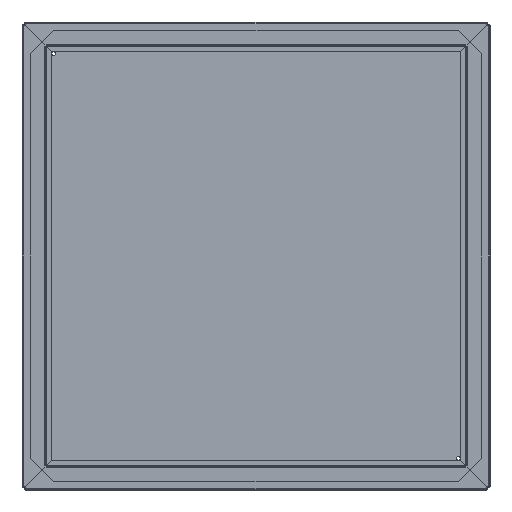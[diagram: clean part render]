
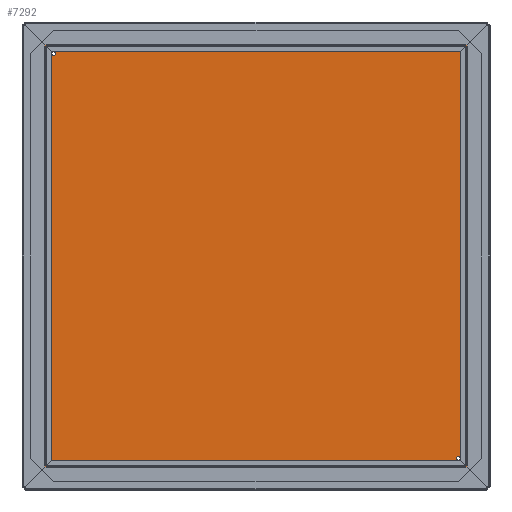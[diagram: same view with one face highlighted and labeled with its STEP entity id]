
A CAD part, front view. The second image highlights one B-rep face of the part: STEP entity #7292.
In plain terms, the highlighted planar face has unit normal (0, -1, 0).
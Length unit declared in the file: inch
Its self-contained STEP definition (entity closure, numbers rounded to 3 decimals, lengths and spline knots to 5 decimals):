
#7057=DIRECTION('',(0.707,0.,-0.707));
#7058=VECTOR('',#7057,1.41421);
#7059=CARTESIAN_POINT('',(-9.65,0.,-8.65));
#7060=LINE('',#7059,#7058);
#7061=DIRECTION('',(0.,0.,1.));
#7062=VECTOR('',#7061,17.3);
#7063=CARTESIAN_POINT('',(-9.65,0.,-8.65));
#7064=LINE('',#7063,#7062);
#7065=DIRECTION('',(-0.707,0.,-0.707));
#7066=VECTOR('',#7065,1.41421);
#7067=CARTESIAN_POINT('',(-8.65,0.,9.65));
#7068=LINE('',#7067,#7066);
#7069=DIRECTION('',(1.,0.,0.));
#7070=VECTOR('',#7069,17.3);
#7071=CARTESIAN_POINT('',(-8.65,0.,9.65));
#7072=LINE('',#7071,#7070);
#7073=DIRECTION('',(-0.707,0.,0.707));
#7074=VECTOR('',#7073,1.41421);
#7075=CARTESIAN_POINT('',(9.65,0.,8.65));
#7076=LINE('',#7075,#7074);
#7077=DIRECTION('',(0.,0.,-1.));
#7078=VECTOR('',#7077,17.3);
#7079=CARTESIAN_POINT('',(9.65,0.,8.65));
#7080=LINE('',#7079,#7078);
#7081=DIRECTION('',(0.707,0.,0.707));
#7082=VECTOR('',#7081,1.41421);
#7083=CARTESIAN_POINT('',(8.65,0.,-9.65));
#7084=LINE('',#7083,#7082);
#7085=DIRECTION('',(-1.,0.,0.));
#7086=VECTOR('',#7085,17.3);
#7087=CARTESIAN_POINT('',(8.65,0.,-9.65));
#7088=LINE('',#7087,#7086);
#7089=CARTESIAN_POINT('',(8.65,0.,-8.65));
#7090=DIRECTION('',(0.,1.,0.));
#7091=DIRECTION('',(1.,0.,0.));
#7092=AXIS2_PLACEMENT_3D('',#7089,#7090,#7091);
#7094=CARTESIAN_POINT('',(8.65,0.,-8.65));
#7095=DIRECTION('',(0.,1.,0.));
#7096=DIRECTION('',(-1.,0.,0.));
#7097=AXIS2_PLACEMENT_3D('',#7094,#7095,#7096);
#7099=CARTESIAN_POINT('',(-8.65,0.,8.65));
#7100=DIRECTION('',(0.,-1.,0.));
#7101=DIRECTION('',(1.,0.,0.));
#7102=AXIS2_PLACEMENT_3D('',#7099,#7100,#7101);
#7104=CARTESIAN_POINT('',(-8.65,0.,8.65));
#7105=DIRECTION('',(0.,-1.,0.));
#7106=DIRECTION('',(-1.,0.,0.));
#7107=AXIS2_PLACEMENT_3D('',#7104,#7105,#7106);
#7209=CARTESIAN_POINT('',(-9.65,0.,-8.65));
#7210=CARTESIAN_POINT('',(-8.65,0.,-9.65));
#7211=VERTEX_POINT('',#7209);
#7212=VERTEX_POINT('',#7210);
#7217=CARTESIAN_POINT('',(-8.65,0.,9.65));
#7218=CARTESIAN_POINT('',(-9.65,0.,8.65));
#7219=VERTEX_POINT('',#7217);
#7220=VERTEX_POINT('',#7218);
#7225=CARTESIAN_POINT('',(9.65,0.,8.65));
#7226=CARTESIAN_POINT('',(8.65,0.,9.65));
#7227=VERTEX_POINT('',#7225);
#7228=VERTEX_POINT('',#7226);
#7233=CARTESIAN_POINT('',(8.65,0.,-9.65));
#7234=CARTESIAN_POINT('',(9.65,0.,-8.65));
#7235=VERTEX_POINT('',#7233);
#7236=VERTEX_POINT('',#7234);
#7241=CARTESIAN_POINT('',(8.7305,0.,-8.65));
#7242=CARTESIAN_POINT('',(8.5695,0.,-8.65));
#7243=VERTEX_POINT('',#7241);
#7244=VERTEX_POINT('',#7242);
#7249=CARTESIAN_POINT('',(-8.5695,0.,8.65));
#7250=CARTESIAN_POINT('',(-8.7305,0.,8.65));
#7251=VERTEX_POINT('',#7249);
#7252=VERTEX_POINT('',#7250);
#7257=CARTESIAN_POINT('',(0.,0.,0.));
#7258=DIRECTION('',(0.,1.,0.));
#7259=DIRECTION('',(1.,0.,0.));
#7260=AXIS2_PLACEMENT_3D('',#7257,#7258,#7259);
#7261=PLANE('',#7260);
#7263=ORIENTED_EDGE('',*,*,#7262,.F.);
#7265=ORIENTED_EDGE('',*,*,#7264,.T.);
#7267=ORIENTED_EDGE('',*,*,#7266,.F.);
#7269=ORIENTED_EDGE('',*,*,#7268,.T.);
#7271=ORIENTED_EDGE('',*,*,#7270,.F.);
#7273=ORIENTED_EDGE('',*,*,#7272,.T.);
#7275=ORIENTED_EDGE('',*,*,#7274,.F.);
#7277=ORIENTED_EDGE('',*,*,#7276,.T.);
#7278=EDGE_LOOP('',(#7263,#7265,#7267,#7269,#7271,#7273,#7275,#7277));
#7279=FACE_OUTER_BOUND('',#7278,.F.);
#7281=ORIENTED_EDGE('',*,*,#7280,.F.);
#7283=ORIENTED_EDGE('',*,*,#7282,.F.);
#7284=EDGE_LOOP('',(#7281,#7283));
#7285=FACE_BOUND('',#7284,.F.);
#7287=ORIENTED_EDGE('',*,*,#7286,.T.);
#7289=ORIENTED_EDGE('',*,*,#7288,.T.);
#7290=EDGE_LOOP('',(#7287,#7289));
#7291=FACE_BOUND('',#7290,.F.);
#7292=ADVANCED_FACE('',(#7279,#7285,#7291),#7261,.F.);
#7093=CIRCLE('',#7092,0.0805);
#7098=CIRCLE('',#7097,0.0805);
#7103=CIRCLE('',#7102,0.0805);
#7108=CIRCLE('',#7107,0.0805);
#7262=EDGE_CURVE('',#7211,#7212,#7060,.T.);
#7264=EDGE_CURVE('',#7211,#7220,#7064,.T.);
#7266=EDGE_CURVE('',#7219,#7220,#7068,.T.);
#7268=EDGE_CURVE('',#7219,#7228,#7072,.T.);
#7270=EDGE_CURVE('',#7227,#7228,#7076,.T.);
#7272=EDGE_CURVE('',#7227,#7236,#7080,.T.);
#7274=EDGE_CURVE('',#7235,#7236,#7084,.T.);
#7276=EDGE_CURVE('',#7235,#7212,#7088,.T.);
#7280=EDGE_CURVE('',#7243,#7244,#7093,.T.);
#7282=EDGE_CURVE('',#7244,#7243,#7098,.T.);
#7286=EDGE_CURVE('',#7251,#7252,#7103,.T.);
#7288=EDGE_CURVE('',#7252,#7251,#7108,.T.);
